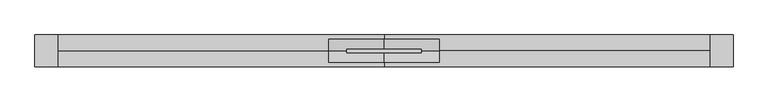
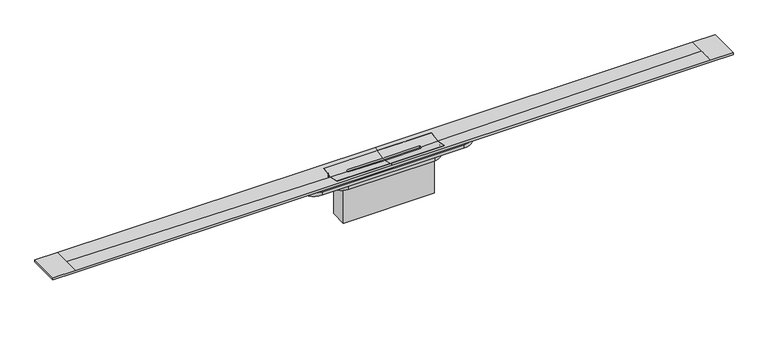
"""IFC4 building model written with IfcOpenShell, lengths in millimetres: sanitary terminal geometry, PF_ST_WPB_ShowerDrain S+_ACO : DN50 w=50mm."""

import ifcopenshell
import ifcopenshell.guid

model = None  # the IFC model being written
_history = None  # IfcOwnerHistory: only IFC2X3 demands one
_inside = {}  # id of a spatial element -> (the spatial element, [elements in it])
_under = {}  # id of a project, library or spatial element -> (it, [spatial elements below it])
_declared = {}  # id of a project -> (the project, [libraries it declares])
_typed = {}  # id of a type object -> (the type object, [elements of that type])
_made_of = {}  # id of a material, layer set ... -> (it, [elements and type objects made of it])


def new_model(schema):
    """Start an empty IFC model of exactly this schema.

    Asked for "IFC4X3", IfcOpenShell would pick the latest addendum, in which some entities
    have other attributes; the version numbers below select the first issue.
    IFC2X3 requires an IfcOwnerHistory on every rooted entity: one is made here for all.
    """
    global model, _history
    if schema == "IFC4X3":
        model = ifcopenshell.file(schema_version=(4, 3, 0, 0))
    else:
        model = ifcopenshell.file(schema=schema)
    _inside.clear()
    _under.clear()
    _declared.clear()
    _typed.clear()
    _made_of.clear()
    _history = None
    if model.schema == "IFC2X3":
        org = make("IfcOrganization", Name="unknown")
        user = make(
            "IfcPersonAndOrganization",
            ThePerson=make("IfcPerson", FamilyName="unknown"),
            TheOrganization=org,
        )
        app = make(
            "IfcApplication",
            ApplicationDeveloper=org,
            Version="unknown",
            ApplicationFullName="unknown",
            ApplicationIdentifier="unknown",
        )
        _history = make(
            "IfcOwnerHistory",
            OwningUser=user,
            OwningApplication=app,
            ChangeAction="ADDED",
            CreationDate=0,
        )
    return model


def make(cls, **values):
    """One entity of the class cls with the attributes given. An attribute that is None is left unset."""
    return model.create_entity(
        cls, **{name: value for name, value in values.items() if value is not None}
    )


def rooted(cls, **values):
    """An entity with a GlobalId (a new one), such as an element, a storey or a relation."""
    return make(cls, GlobalId=ifcopenshell.guid.new(), OwnerHistory=_history, **values)


def si_unit(unit_type, name, prefix=None):
    """IfcSIUnit, for example si_unit("LENGTHUNIT", "METRE", prefix="MILLI")."""
    return make("IfcSIUnit", UnitType=unit_type, Prefix=prefix, Name=name)


def assignment(units):
    """IfcUnitAssignment: the units of a project."""
    return None if units is None else make("IfcUnitAssignment", Units=units)


def point(xyz):
    """IfcCartesianPoint."""
    return None if xyz is None else make("IfcCartesianPoint", Coordinates=xyz)


def direction(xyz):
    """IfcDirection."""
    return None if xyz is None else make("IfcDirection", DirectionRatios=xyz)


def frame(location, z_axis=None, x_axis=None):
    """IfcAxis2Placement3D, a coordinate frame: its origin and axes. An axis left out is left unset."""
    return make(
        "IfcAxis2Placement3D",
        Location=point(location),
        Axis=direction(z_axis),
        RefDirection=direction(x_axis),
    )


def origin():
    """The frame at (0, 0, 0) with its axes left unset."""
    return frame((0.0, 0.0, 0.0))


def place(relative_to, where):
    """IfcLocalPlacement: puts the frame where relative to a parent placement (None: the world)."""
    return make(
        "IfcLocalPlacement", PlacementRelTo=relative_to, RelativePlacement=where
    )


def context(
    kind, dimensions, precision=None, world=None, true_north=None, identifier=None
):
    """IfcGeometricRepresentationContext, for example the 3D "Model" context."""
    return make(
        "IfcGeometricRepresentationContext",
        ContextIdentifier=identifier,
        ContextType=kind,
        CoordinateSpaceDimension=dimensions,
        Precision=precision,
        WorldCoordinateSystem=world,
        TrueNorth=true_north,
    )


def project(units=None, contexts=None):
    """IfcProject with its units and contexts."""
    return rooted(
        "IfcProject",
        Name="project",
        RepresentationContexts=contexts,
        UnitsInContext=assignment(units),
    )


def spatial(cls, under=None, at=None, **own):
    """A site, building, storey or space (cls), placed at a placement, below another one or the project."""
    s = rooted(cls, ObjectPlacement=at, **own)
    if under is not None:
        _under.setdefault(under.id(), (under, []))[1].append(s)
    return s


def polyline(points):
    """IfcPolyline through the points."""
    return make("IfcPolyline", Points=[point(p) for p in points])


def circle_curve(where, radius):
    """IfcCircle in the frame where."""
    return make("IfcCircle", Position=where, Radius=radius)


def outline(outer, holes=None, kind="AREA"):
    """IfcArbitraryClosedProfileDef: a profile drawn as a closed curve; with holes, ...WithVoids."""
    if holes is None:
        return make("IfcArbitraryClosedProfileDef", ProfileType=kind, OuterCurve=outer)
    return make(
        "IfcArbitraryProfileDefWithVoids",
        ProfileType=kind,
        OuterCurve=outer,
        InnerCurves=holes,
    )


def extrude(swept, where, along, depth):
    """IfcExtrudedAreaSolid: the profile swept, set in the frame where, extruded along a direction by depth."""
    return make(
        "IfcExtrudedAreaSolid",
        SweptArea=swept,
        Position=where,
        ExtrudedDirection=direction(along),
        Depth=depth,
    )


def shape(context_of_items, identifier, shape_type, items):
    """IfcShapeRepresentation: the items that make up one representation, for example the "Body"."""
    return make(
        "IfcShapeRepresentation",
        ContextOfItems=context_of_items,
        RepresentationIdentifier=identifier,
        RepresentationType=shape_type,
        Items=items,
    )


def source(mapping_origin, context_of_items, identifier, shape_type, items):
    """IfcRepresentationMap: a shape defined once, which mapped items show again and again."""
    return make(
        "IfcRepresentationMap",
        MappingOrigin=mapping_origin,
        MappedRepresentation=shape(context_of_items, identifier, shape_type, items),
    )


def transform(
    local_origin,
    x_axis=None,
    y_axis=None,
    z_axis=None,
    scale=None,
    scale2=None,
    scale3=None,
    uniform=True,
):
    """IfcCartesianTransformationOperator3D, or its non-uniform kind. x_axis, y_axis, z_axis: its Axis1, 2, 3."""
    if uniform:
        return make(
            "IfcCartesianTransformationOperator3D",
            Axis1=direction(x_axis),
            Axis2=direction(y_axis),
            LocalOrigin=point(local_origin),
            Scale=scale,
            Axis3=direction(z_axis),
        )
    return make(
        "IfcCartesianTransformationOperator3DnonUniform",
        Axis1=direction(x_axis),
        Axis2=direction(y_axis),
        LocalOrigin=point(local_origin),
        Scale=scale,
        Axis3=direction(z_axis),
        Scale2=scale2,
        Scale3=scale3,
    )


def mapped(mapping_source, mapping_target):
    """IfcMappedItem: shows the shape of a source again, moved by a transform."""
    return make(
        "IfcMappedItem", MappingSource=mapping_source, MappingTarget=mapping_target
    )


def made_of(thing, what):
    """Note that an element or type object is made of a material, layer set ...; save() writes the relation."""
    if what is not None:
        _made_of.setdefault(what.id(), (what, []))[1].append(thing)
    return thing


def element(
    cls,
    number,
    at=None,
    inside=None,
    cuts=None,
    type_object=None,
    material=None,
    context=None,
    identifier="Body",
    shape_type=None,
    held_by="IfcProductDefinitionShape",
    body=None,
    shapes=None,
    **own,
):
    """One element of the class cls, such as IfcWall. Its Tag is "e" and its number.

    at: its placement. inside: the storey or other place that contains it. cuts: it is an
    opening in that element (IfcRelVoidsElement). A single representation is given by context,
    identifier, shape_type and body (its items); several are given by shapes. held_by: the class
    of the entity that holds the representations. save() writes the other relations.
    """
    e = rooted(cls, Tag="e%d" % number, ObjectPlacement=at, **own)
    if body is not None:
        shapes = [shape(context, identifier, shape_type, body)]
    if shapes is not None:
        e.Representation = make(held_by, Representations=shapes)
    if inside is not None:
        _inside.setdefault(inside.id(), (inside, []))[1].append(e)
    if cuts is not None:
        rooted(
            "IfcRelVoidsElement", RelatingBuildingElement=cuts, RelatedOpeningElement=e
        )
    if type_object is not None:
        _typed.setdefault(type_object.id(), (type_object, []))[1].append(e)
    return made_of(e, material)


def aggregate(whole, parts):
    """IfcRelAggregates: a whole, such as a stair, and the parts it consists of."""
    return rooted("IfcRelAggregates", RelatingObject=whole, RelatedObjects=parts)


def save(model, path):
    """Write the relations noted so far, then the file.

    IfcRelAggregates (storeys below a building ...), IfcRelContainedInSpatialStructure (elements
    in a storey), IfcRelDefinesByType, IfcRelAssociatesMaterial and IfcRelDeclares: one each for
    every whole, place, type object, material and project.
    """
    for whole, parts in _under.values():
        aggregate(whole, parts)
    for where, things in _inside.values():
        rooted(
            "IfcRelContainedInSpatialStructure",
            RelatedElements=things,
            RelatingStructure=where,
        )
    for kind, things in _typed.values():
        rooted("IfcRelDefinesByType", RelatedObjects=things, RelatingType=kind)
    for what, things in _made_of.values():
        rooted("IfcRelAssociatesMaterial", RelatedObjects=things, RelatingMaterial=what)
    for by, libraries in _declared.values():
        rooted("IfcRelDeclares", RelatingContext=by, RelatedDefinitions=libraries)
    model.write(path)


def plane_surface(at):
    """IfcPlane: the flat surface through the origin of the frame at, square to its z axis."""
    return make("IfcPlane", Position=at)


def cylinder_surface(at, radius):
    """IfcCylindricalSurface: all points at the distance radius from the z axis of the frame at."""
    return make("IfcCylindricalSurface", Position=at, Radius=radius)


def revolved_surface(curve, axis_point, axis_direction):
    """IfcSurfaceOfRevolution: the curve turned about the line through axis_point along axis_direction."""
    return make(
        "IfcSurfaceOfRevolution",
        SweptCurve=make("IfcArbitraryOpenProfileDef", ProfileType="CURVE", Curve=curve),
        AxisPosition=make("IfcAxis1Placement", Location=point(axis_point), Axis=direction(axis_direction)),
    )


def spline_surface(u_degree, v_degree, points, u_multiplicities, v_multiplicities, u_knots, v_knots, weights=None):
    """IfcBSplineSurfaceWithKnots; with weights, IfcRationalBSplineSurfaceWithKnots. points: one row for each step in u."""
    own = dict(
        UDegree=u_degree,
        VDegree=v_degree,
        ControlPointsList=[[point(p) for p in row] for row in points],
        SurfaceForm="UNSPECIFIED",
        UClosed=False,
        VClosed=False,
        SelfIntersect=False,
        UMultiplicities=u_multiplicities,
        VMultiplicities=v_multiplicities,
        UKnots=u_knots,
        VKnots=v_knots,
        KnotSpec="UNSPECIFIED",
    )
    if weights is None:
        return make("IfcBSplineSurfaceWithKnots", **own)
    return make("IfcRationalBSplineSurfaceWithKnots", WeightsData=weights, **own)


def advanced_brep(points, edges, surfaces, faces):
    """IfcAdvancedBrep: a solid bounded by faces that lie on surfaces and meet in shared edges.

    An edge is (start, end): straight between two places in points (the first is 0);
    or (start, end, curve); or (start, end, curve, False) where it runs against its curve.
    A face is (place in surfaces, loops), or (place, loops, False) where it looks against
    its surface's normal. A loop lists edges by number (the first is 1), with a minus sign
    where the edge is run from its end to its start. The first loop is the outer one.
    """
    corners = [point(p) for p in points]
    vertices = [make("IfcVertexPoint", VertexGeometry=c) for c in corners]
    made = []
    for start, end, *more in edges:
        made.append(
            make(
                "IfcEdgeCurve",
                EdgeStart=vertices[start],
                EdgeEnd=vertices[end],
                EdgeGeometry=more[0] if more else make("IfcPolyline", Points=[corners[start], corners[end]]),
                SameSense=more[1] if len(more) > 1 else True,
            )
        )
    hull = []
    for where, loops, *sense in faces:
        bounds = []
        for j, loop in enumerate(loops):
            ring = [make("IfcOrientedEdge", EdgeElement=made[abs(k) - 1], Orientation=k > 0) for k in loop]
            bounds.append(
                make(
                    "IfcFaceOuterBound" if j == 0 else "IfcFaceBound",
                    Bound=make("IfcEdgeLoop", EdgeList=ring),
                    Orientation=True,
                )
            )
        hull.append(make("IfcAdvancedFace", Bounds=bounds, FaceSurface=surfaces[where], SameSense=sense[0] if sense else True))
    return make("IfcAdvancedBrep", Outer=make("IfcClosedShell", CfsFaces=hull))


def sanitary_terminal_2984dfda(model_context):
    return source(origin(), model_context, "Body", "SolidModel", [
        extrude(outline(polyline([(80.2147672, 14.9991176), (80.2147672, -14.9991176), (-80.2147672, -14.9991176), (-80.2147672, 14.9991176), (80.2147672, 14.9991176)])), frame((0.0, 0.0, -88.0), z_axis=(0.0, 0.0, 1.0), x_axis=(1.0, 0.0, 0.0)), (0.0, 0.0, 1.0), 76.0),
        extrude(outline(polyline([(92.5, 18.0), (92.5, -18.0), (-92.5, -18.0), (-92.5, 18.0), (92.5, 18.0)])), frame((0.0, 0.0, -11.75), z_axis=(0.0, 0.0, 1.0), x_axis=(1.0, 0.0, 0.0)), (0.0, 0.0, 1.0), 1.25),
        advanced_brep(
        [(94.75, 0.0, -5.2200953), (94.75, 19.8, -1.4616267), (0.0, 19.8, -1.7592927), (0.0, 3.75, -5.4263899), (65.0, 3.75, -4.7965411), (65.0, 0.0, -5.5538897), (94.75, -19.8, -1.4616267), (65.0, -3.75, -4.7965411), (0.0, -3.75, -5.4263899), (0.0, -19.8, -1.7592927), (94.75, 0.0, -9.2200953), (94.75, -19.8, -5.4616267), (0.0, -19.8, -5.7592927), (0.0, -3.75, -9.4263899), (65.0, -3.75, -8.7965411), (65.0, 0.0, -9.5538897), (94.75, 19.8, -5.4616267), (65.0, 3.75, -8.7965411), (0.0, 3.75, -9.4263899), (0.0, 19.8, -5.7592927), (-94.75, -19.8, -1.4616267), (-94.75, -19.8, -5.4616267), (-94.75, 0.0, -5.2200953), (-94.75, 19.8, -1.4616267), (-94.75, 19.8, -5.4616267), (-94.75, 0.0, -9.2200953), (-65.0, 0.0, -5.5538897), (-65.0, 3.75, -4.7965411), (-65.0, 3.75, -8.7965411), (-65.0, 0.0, -9.5538897), (-65.0, -3.75, -8.7965411), (-65.0, -3.75, -4.7965411)],
        [
            (0, 1),
            (1, 2),
            (2, 3),
            (3, 4),
            (4, 5),
            (5, 0),
            (6, 0),
            (5, 7),
            (7, 8),
            (8, 9),
            (9, 6),
            (10, 11),
            (11, 12),
            (12, 13),
            (13, 14),
            (14, 15),
            (15, 10),
            (16, 10),
            (15, 17),
            (17, 18),
            (18, 19),
            (19, 16),
            (16, 1),
            (6, 11),
            (9, 20),
            (20, 21),
            (21, 12),
            (20, 22),
            (22, 23),
            (23, 24),
            (24, 25),
            (25, 21),
            (19, 24),
            (23, 2),
            (22, 26),
            (26, 27),
            (27, 3),
            (18, 28),
            (28, 29),
            (29, 25),
            (29, 30),
            (30, 13),
            (8, 31),
            (31, 26),
            (17, 4),
            (27, 28),
            (31, 30),
            (7, 14),
        ],
        [
            spline_surface(1, 1, [[(560.0, 0.0, 0.0), (0.0, 0.0, -6.2831883)], [(560.0, 27.5, 0.0), (0.0, 27.5, 0.0)]], [2, 2], [2, 2], [0.0, 1.0], [0.0, 1.0]),
            spline_surface(1, 1, [[(560.0, -27.5, 0.0), (0.0, -27.5, 0.0)], [(560.0, 0.0, 0.0), (0.0, 0.0, -6.2831883)]], [2, 2], [2, 2], [0.0, 1.0], [0.0, 1.0]),
            spline_surface(1, 1, [[(560.0, 0.0, -4.0), (0.0, 0.0, -10.2831883)], [(560.0, -27.5, -4.0), (0.0, -27.5, -4.0)]], [2, 2], [2, 2], [0.0, 1.0], [0.0, 1.0]),
            spline_surface(1, 1, [[(560.0, 27.5, -4.0), (0.0, 27.5, -4.0)], [(560.0, 0.0, -4.0), (0.0, 0.0, -10.2831883)]], [2, 2], [2, 2], [0.0, 1.0], [0.0, 1.0]),
            plane_surface(frame((94.75, 19.8, 0.0), z_axis=(1.0, 0.0, 0.0), x_axis=(0.0, 0.0, -1.0))),
            plane_surface(frame((94.75, -19.8, 0.0), z_axis=(0.0, -1.0, 0.0), x_axis=(0.0, 0.0, -1.0))),
            plane_surface(frame((-94.75, -19.8, 0.0), z_axis=(-1.0, 0.0, 0.0), x_axis=(0.0, 0.0, -1.0))),
            plane_surface(frame((-94.75, 19.8, 0.0), z_axis=(0.0, 1.0, 0.0), x_axis=(0.0, 0.0, -1.0))),
            spline_surface(1, 1, [[(-560.0, 27.5, 0.0), (0.0, 27.5, 0.0)], [(-560.0, 0.0, 0.0), (0.0, 0.0, -6.2831883)]], [2, 2], [2, 2], [0.0, 1.0], [0.0, 1.0]),
            spline_surface(1, 1, [[(-560.0, 0.0, -4.0), (0.0, 0.0, -10.2831883)], [(-560.0, 27.5, -4.0), (0.0, 27.5, -4.0)]], [2, 2], [2, 2], [0.0, 1.0], [0.0, 1.0]),
            spline_surface(1, 1, [[(-560.0, -27.5, -4.0), (0.0, -27.5, -4.0)], [(-560.0, 0.0, -4.0), (0.0, 0.0, -10.2831883)]], [2, 2], [2, 2], [0.0, 1.0], [0.0, 1.0]),
            spline_surface(1, 1, [[(-560.0, 0.0, 0.0), (0.0, 0.0, -6.2831883)], [(-560.0, -27.5, 0.0), (0.0, -27.5, 0.0)]], [2, 2], [2, 2], [0.0, 1.0], [0.0, 1.0]),
            plane_surface(frame((65.0, 3.75, 0.0), z_axis=(0.0, -1.0, 0.0), x_axis=(0.0, 0.0, -1.0))),
            plane_surface(frame((-65.0, 3.75, 0.0), z_axis=(1.0, 0.0, 0.0), x_axis=(0.0, 0.0, -1.0))),
            plane_surface(frame((-65.0, -3.75, 0.0), z_axis=(0.0, 1.0, 0.0), x_axis=(0.0, 0.0, -1.0))),
            plane_surface(frame((65.0, -3.75, 0.0), z_axis=(-1.0, 0.0, 0.0), x_axis=(0.0, 0.0, -1.0))),
        ],
        [
            (0, [[1, 2, 3, 4, 5, 6]]),
            (1, [[7, -6, 8, 9, 10, 11]]),
            (2, [[12, 13, 14, 15, 16, 17]]),
            (3, [[18, -17, 19, 20, 21, 22]]),
            (4, [[23, -1, -7, 24, -12, -18]]),
            (5, [[-24, -11, 25, 26, 27, -13]]),
            (6, [[-26, 28, 29, 30, 31, 32]]),
            (7, [[-23, -22, 33, -30, 34, -2]]),
            (8, [[-29, 35, 36, 37, -3, -34]]),
            (9, [[-31, -33, -21, 38, 39, 40]]),
            (10, [[-27, -32, -40, 41, 42, -14]]),
            (11, [[-25, -10, 43, 44, -35, -28]]),
            (12, [[45, -4, -37, 46, -38, -20]]),
            (13, [[-46, -36, -44, 47, -41, -39]]),
            (14, [[-47, -43, -9, 48, -15, -42]]),
            (15, [[-45, -19, -16, -48, -8, -5]]),
        ],
    ),
        advanced_brep(
        [(125.0, 27.5, -12.0), (125.0, -27.5, -12.0), (-125.0, -27.5, -12.0), (-125.0, 27.5, -12.0), (75.0, 22.0, -12.0), (-75.0, 22.0, -12.0), (-75.624958, -22.0, -12.0), (76.5620759, -22.0, -12.0), (125.0, 27.5, -6.0), (-125.0, 27.5, -6.0), (-125.0, -27.5, -6.0), (125.0, -27.5, -6.0), (75.0, 18.5, -6.0), (76.6659145, -18.5, -6.0), (-76.6659145, -18.5, -6.0), (-75.0, 18.5, -6.0), (75.0, 22.0, -22.0), (76.5620759, -22.0, -22.0), (-75.624958, -22.0, -22.0), (-75.0, 22.0, -22.0), (76.6659145, -18.5, -22.0), (75.0, 18.5, -22.0), (-75.0, 18.5, -22.0), (-76.6659145, -18.5, -22.0)],
        [
            (0, 1, circle_curve(frame((125.0, 0.0, -12.0), z_axis=(0.0, 0.0, -1.0), x_axis=(1.0, 0.0, 0.0)), 27.5)),
            (1, 2),
            (2, 3, circle_curve(frame((-125.0, 0.0, -12.0), z_axis=(0.0, 0.0, -1.0), x_axis=(1.0, 0.0, 0.0)), 27.5)),
            (3, 0),
            (4, 5),
            (5, 6, circle_curve(frame((-75.624958, 0.0044383, -12.0), z_axis=(0.0, 0.0, 1.0), x_axis=(1.0, 0.0, 0.0)), 22.0044383)),
            (6, 7),
            (7, 4, circle_curve(frame((76.5620759, 0.0277282, -12.0), z_axis=(0.0, 0.0, 1.0), x_axis=(1.0, 0.0, 0.0)), 22.0277282)),
            (8, 9),
            (9, 10, circle_curve(frame((-125.0, 0.0, -6.0), z_axis=(0.0, 0.0, 1.0), x_axis=(1.0, 0.0, 0.0)), 27.5)),
            (10, 11),
            (11, 8, circle_curve(frame((125.0, 0.0, -6.0), z_axis=(0.0, 0.0, 1.0), x_axis=(1.0, 0.0, 0.0)), 27.5)),
            (12, 13, circle_curve(frame((76.6659145, 0.0375037, -6.0), z_axis=(0.0, 0.0, -1.0), x_axis=(-1.0, 0.0, 0.0)), 18.5375037)),
            (13, 14),
            (14, 15, circle_curve(frame((-76.6659145, 0.0375037, -6.0), z_axis=(0.0, 0.0, -1.0), x_axis=(-1.0, 0.0, 0.0)), 18.5375037)),
            (15, 12),
            (3, 9),
            (8, 0),
            (2, 10),
            (1, 11),
            (16, 17, circle_curve(frame((76.5620759, 0.0277282, -22.0), z_axis=(0.0, 0.0, -1.0), x_axis=(1.0, 0.0, 0.0)), 22.0277282)),
            (17, 18),
            (18, 19, circle_curve(frame((-75.624958, 0.0044383, -22.0), z_axis=(0.0, 0.0, -1.0), x_axis=(1.0, 0.0, 0.0)), 22.0044383)),
            (19, 16),
            (20, 21, circle_curve(frame((76.6659145, 0.0375037, -22.0), z_axis=(0.0, 0.0, 1.0), x_axis=(-1.0, 0.0, 0.0)), 18.5375037)),
            (21, 22),
            (22, 23, circle_curve(frame((-76.6659145, 0.0375037, -22.0), z_axis=(0.0, 0.0, 1.0), x_axis=(-1.0, 0.0, 0.0)), 18.5375037)),
            (23, 20),
            (19, 5),
            (4, 16),
            (18, 6),
            (17, 7),
            (12, 21),
            (20, 13),
            (23, 14),
            (22, 15),
        ],
        [
            plane_surface(frame((-125.0, 27.5, -12.0), z_axis=(0.0, 0.0, -1.0), x_axis=(1.0, 0.0, 0.0))),
            plane_surface(frame((-125.0, 27.5, -6.0), z_axis=(0.0, 0.0, 1.0), x_axis=(-1.0, 0.0, 0.0))),
            plane_surface(frame((125.0, 27.5, -6.0), z_axis=(0.0, 1.0, 0.0), x_axis=(0.0, 0.0, -1.0))),
            cylinder_surface(frame((-125.0, 0.0, -12.0), z_axis=(0.0, 0.0, 1.0), x_axis=(1.0, 0.0, 0.0)), 27.5),
            plane_surface(frame((-125.0, -27.5, -6.0), z_axis=(0.0, -1.0, 0.0), x_axis=(0.0, 0.0, -1.0))),
            cylinder_surface(frame((125.0, 0.0, -12.0), z_axis=(0.0, 0.0, 1.0), x_axis=(1.0, 0.0, 0.0)), 27.5),
            plane_surface(frame((-75.0, 22.0, -22.0), z_axis=(0.0, 0.0, -1.0), x_axis=(1.0, 0.0, 0.0))),
            plane_surface(frame((75.0, 22.0, -12.0), z_axis=(0.0, 1.0, 0.0), x_axis=(0.0, 0.0, -1.0))),
            cylinder_surface(frame((-75.624958, 0.0044383, -22.0), z_axis=(0.0, 0.0, 1.0), x_axis=(1.0, 0.0, 0.0)), 22.0044383),
            plane_surface(frame((-75.624958, -22.0, -12.0), z_axis=(0.0, -1.0, 0.0), x_axis=(0.0, 0.0, -1.0))),
            cylinder_surface(frame((76.5620759, 0.0277282, -22.0), z_axis=(0.0, 0.0, 1.0), x_axis=(1.0, 0.0, 0.0)), 22.0277282),
            revolved_surface(polyline([(58.1284108, 0.0375037, -22.0), (58.1284108, 0.0375037, -6.0)]), (76.6659145, 0.0375037, -4.0), (0.0, 0.0, -1.0)),
            plane_surface(frame((76.6659145, -18.5, -22.0), z_axis=(0.0, 1.0, 0.0), x_axis=(0.0, 0.0, 1.0))),
            revolved_surface(polyline([(-95.2034182, 0.0375037, -22.0), (-95.2034182, 0.0375037, -6.0)]), (-76.6659145, 0.0375037, -4.0), (0.0, 0.0, -1.0)),
            plane_surface(frame((-75.0, 18.5, -22.0), z_axis=(0.0, -1.0, 0.0), x_axis=(0.0, 0.0, 1.0))),
        ],
        [
            (0, [[1, 2, 3, 4], [5, 6, 7, 8]]),
            (1, [[9, 10, 11, 12], [13, 14, 15, 16]]),
            (2, [[-4, 17, -9, 18]]),
            (3, [[-3, 19, -10, -17]]),
            (4, [[-2, 20, -11, -19]]),
            (5, [[-1, -18, -12, -20]]),
            (6, [[21, 22, 23, 24], [25, 26, 27, 28]]),
            (7, [[-24, 29, -5, 30]]),
            (8, [[-23, 31, -6, -29]]),
            (9, [[-22, 32, -7, -31]]),
            (10, [[-21, -30, -8, -32]]),
            (11, [[33, -25, 34, -13]]),
            (12, [[-34, -28, 35, -14]]),
            (13, [[-35, -27, 36, -15]]),
            (14, [[-33, -16, -36, -26]]),
        ],
    ),
        advanced_brep(
        [(-560.0, 27.5, 0.0), (0.0, 27.5, 0.0), (560.0, 27.5, 0.0), (600.0, 27.5, 0.0), (600.0, 27.5, -4.0), (560.0, 27.5, -4.0), (0.0, 27.5, -4.0), (-560.0, 27.5, -4.0), (-600.0, 27.5, -4.0), (-600.0, 27.5, 0.0), (-560.0, 0.0, 0.0), (-95.0, 0.0, -5.2172903), (-95.0, 20.0, -1.4228974), (0.0, 20.0, -1.7135968), (-560.0, -27.5, 0.0), (0.0, -27.5, 0.0), (0.0, -20.0, -1.7135968), (-95.0, -20.0, -1.4228974), (-600.0, -27.5, 0.0), (-600.0, -27.5, -4.0), (-560.0, -27.5, -4.0), (0.0, -27.5, -4.0), (560.0, -27.5, -4.0), (600.0, -27.5, -4.0), (600.0, -27.5, 0.0), (560.0, -27.5, 0.0), (-560.0, 0.0, -4.0), (-95.0, 0.0, -9.2172903), (-95.0, -20.0, -5.4228974), (0.0, -20.0, -5.7135968), (0.0, 20.0, -5.7135968), (-95.0, 20.0, -5.4228974), (560.0, 0.0, -4.0), (95.0, 0.0, -9.2172903), (95.0, 20.0, -5.4228974), (95.0, -20.0, -5.4228974), (560.0, 0.0, 0.0), (95.0, 0.0, -5.2172903), (95.0, -20.0, -1.4228974), (95.0, 20.0, -1.4228974)],
        [
            (0, 1),
            (1, 2),
            (2, 3),
            (3, 4),
            (4, 5),
            (5, 6),
            (6, 7),
            (7, 8),
            (8, 9),
            (9, 0),
            (0, 10),
            (10, 11),
            (11, 12),
            (12, 13),
            (13, 1),
            (14, 15),
            (15, 16),
            (16, 17),
            (17, 11),
            (10, 14),
            (14, 18),
            (18, 19),
            (19, 20),
            (20, 21),
            (21, 22),
            (22, 23),
            (23, 24),
            (24, 25),
            (25, 15),
            (20, 26),
            (26, 27),
            (27, 28),
            (28, 29),
            (29, 21),
            (6, 30),
            (30, 31),
            (31, 27),
            (26, 7),
            (5, 32),
            (32, 33),
            (33, 34),
            (34, 30),
            (29, 35),
            (35, 33),
            (32, 22),
            (25, 36),
            (36, 37),
            (37, 38),
            (38, 16),
            (13, 39),
            (39, 37),
            (36, 2),
            (18, 9),
            (8, 19),
            (23, 4),
            (3, 24),
            (34, 39),
            (12, 31),
            (17, 28),
            (38, 35),
        ],
        [
            plane_surface(frame((-560.0, 27.5, -2.0), z_axis=(0.0, 1.0, 0.0), x_axis=(0.0, 0.0, 1.0))),
            spline_surface(1, 1, [[(-560.0, 27.5, 0.0), (0.0, 27.5, 0.0)], [(-560.0, 0.0, 0.0), (0.0, 0.0, -6.2831883)]], [2, 2], [2, 2], [0.0, 1.0], [0.0, 1.0]),
            spline_surface(1, 1, [[(-560.0, 0.0, 0.0), (0.0, 0.0, -6.2831883)], [(-560.0, -27.5, 0.0), (0.0, -27.5, 0.0)]], [2, 2], [2, 2], [0.0, 1.0], [0.0, 1.0]),
            plane_surface(frame((-560.0, -27.5, -2.0), z_axis=(0.0, -1.0, 0.0), x_axis=(0.0, 0.0, -1.0))),
            spline_surface(1, 1, [[(-560.0, -27.5, -4.0), (0.0, -27.5, -4.0)], [(-560.0, 0.0, -4.0), (0.0, 0.0, -10.2831883)]], [2, 2], [2, 2], [0.0, 1.0], [0.0, 1.0]),
            spline_surface(1, 1, [[(-560.0, 0.0, -4.0), (0.0, 0.0, -10.2831883)], [(-560.0, 27.5, -4.0), (0.0, 27.5, -4.0)]], [2, 2], [2, 2], [0.0, 1.0], [0.0, 1.0]),
            spline_surface(1, 1, [[(560.0, 27.5, -4.0), (0.0, 27.5, -4.0)], [(560.0, 0.0, -4.0), (0.0, 0.0, -10.2831883)]], [2, 2], [2, 2], [0.0, 1.0], [0.0, 1.0]),
            spline_surface(1, 1, [[(560.0, 0.0, -4.0), (0.0, 0.0, -10.2831883)], [(560.0, -27.5, -4.0), (0.0, -27.5, -4.0)]], [2, 2], [2, 2], [0.0, 1.0], [0.0, 1.0]),
            spline_surface(1, 1, [[(560.0, -27.5, 0.0), (0.0, -27.5, 0.0)], [(560.0, 0.0, 0.0), (0.0, 0.0, -6.2831883)]], [2, 2], [2, 2], [0.0, 1.0], [0.0, 1.0]),
            spline_surface(1, 1, [[(560.0, 0.0, 0.0), (0.0, 0.0, -6.2831883)], [(560.0, 27.5, 0.0), (0.0, 27.5, 0.0)]], [2, 2], [2, 2], [0.0, 1.0], [0.0, 1.0]),
            plane_surface(frame((-600.0, -27.5, 0.0), z_axis=(-1.0, 0.0, 0.0), x_axis=(0.0, 0.0, 1.0))),
            plane_surface(frame((-560.0, -27.5, -4.0), z_axis=(0.0, 0.0, -1.0), x_axis=(-1.0, 0.0, 0.0))),
            plane_surface(frame((-560.0, 27.5, 0.0), z_axis=(0.0, 0.0, 1.0), x_axis=(-1.0, 0.0, 0.0))),
            plane_surface(frame((600.0, -27.5, 0.0), z_axis=(1.0, 0.0, 0.0), x_axis=(0.0, 0.0, -1.0))),
            plane_surface(frame((600.0, -27.5, -4.0), z_axis=(0.0, 0.0, -1.0), x_axis=(-1.0, 0.0, 0.0))),
            plane_surface(frame((600.0, 27.5, 0.0), z_axis=(0.0, 0.0, 1.0), x_axis=(-1.0, 0.0, 0.0))),
            plane_surface(frame((95.0, 20.0, 0.0), z_axis=(0.0, -1.0, 0.0), x_axis=(0.0, 0.0, -1.0))),
            plane_surface(frame((-95.0, 20.0, 0.0), z_axis=(1.0, 0.0, 0.0), x_axis=(0.0, 0.0, -1.0))),
            plane_surface(frame((-95.0, -20.0, 0.0), z_axis=(0.0, 1.0, 0.0), x_axis=(0.0, 0.0, -1.0))),
            plane_surface(frame((95.0, -20.0, 0.0), z_axis=(-1.0, 0.0, 0.0), x_axis=(0.0, 0.0, -1.0))),
        ],
        [
            (0, [[1, 2, 3, 4, 5, 6, 7, 8, 9, 10]]),
            (1, [[-1, 11, 12, 13, 14, 15]]),
            (2, [[16, 17, 18, 19, -12, 20]]),
            (3, [[-16, 21, 22, 23, 24, 25, 26, 27, 28, 29]]),
            (4, [[-24, 30, 31, 32, 33, 34]]),
            (5, [[-7, 35, 36, 37, -31, 38]]),
            (6, [[-6, 39, 40, 41, 42, -35]]),
            (7, [[-25, -34, 43, 44, -40, 45]]),
            (8, [[-29, 46, 47, 48, 49, -17]]),
            (9, [[-2, -15, 50, 51, -47, 52]]),
            (10, [[53, -9, 54, -22]]),
            (11, [[-54, -8, -38, -30, -23]]),
            (12, [[-53, -21, -20, -11, -10]]),
            (13, [[-27, 55, -4, 56]]),
            (14, [[-55, -26, -45, -39, -5]]),
            (15, [[-56, -3, -52, -46, -28]]),
            (16, [[57, -50, -14, 58, -36, -42]]),
            (17, [[-58, -13, -19, 59, -32, -37]]),
            (18, [[-59, -18, -49, 60, -43, -33]]),
            (19, [[-57, -41, -44, -60, -48, -51]]),
        ],
    ),
    ])


if __name__ == "__main__":
    model = new_model("IFC4")
    model_context = context("Model", 3, world=origin())
    ifc_project = project(units=[si_unit("LENGTHUNIT", "METRE", prefix="MILLI")], contexts=[model_context])
    site = spatial("IfcSite", under=ifc_project)
    building = spatial("IfcBuilding", under=site)
    placement = place(None, origin())
    sanitary_terminal_shape = sanitary_terminal_2984dfda(model_context)
    element("IfcSanitaryTerminal", 1, ObjectType="PF_ST_WPB_ShowerDrain S+_ACO : DN50 w=50mm", at=placement, inside=building, context=model_context, shape_type="MappedRepresentation", body=[
        mapped(sanitary_terminal_shape, transform((0.0, 0.0, 0.0), x_axis=(1.0, 0.0, 0.0), y_axis=(0.0, 1.0, 0.0), z_axis=(0.0, 0.0, 1.0))),
    ])
    save(model, "model.ifc")
